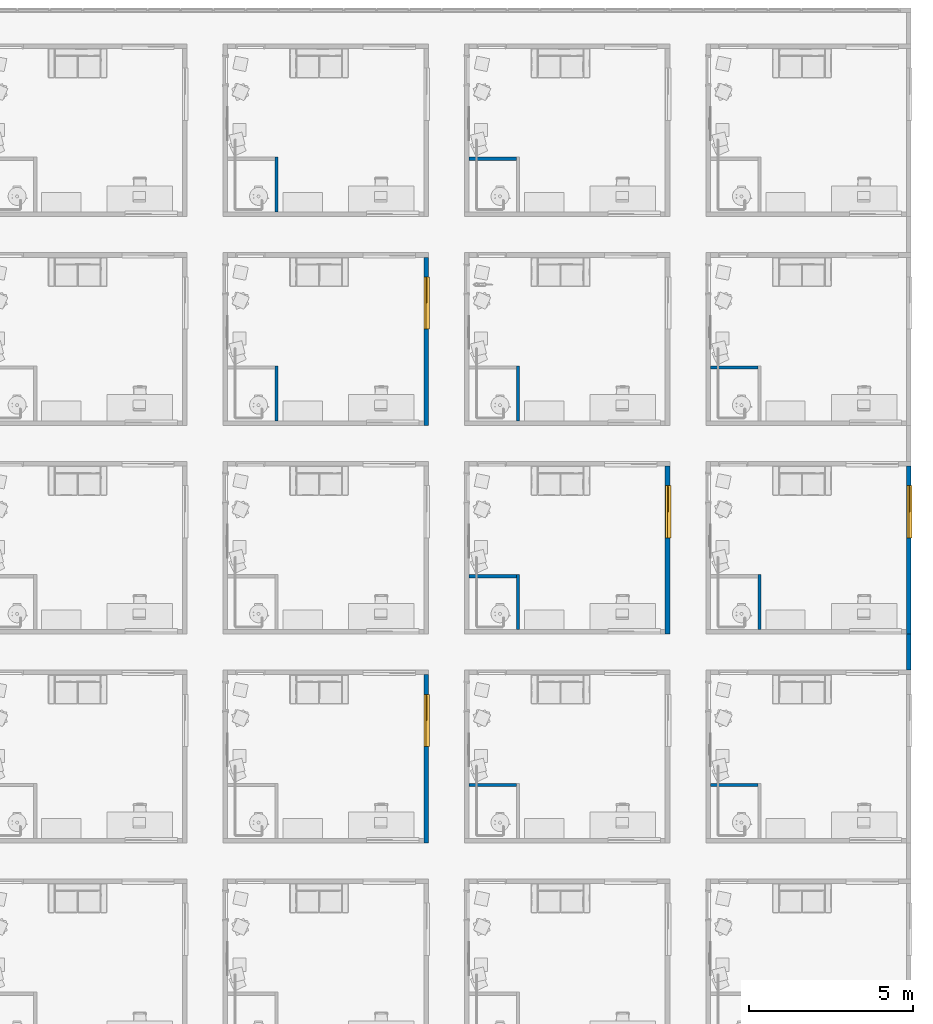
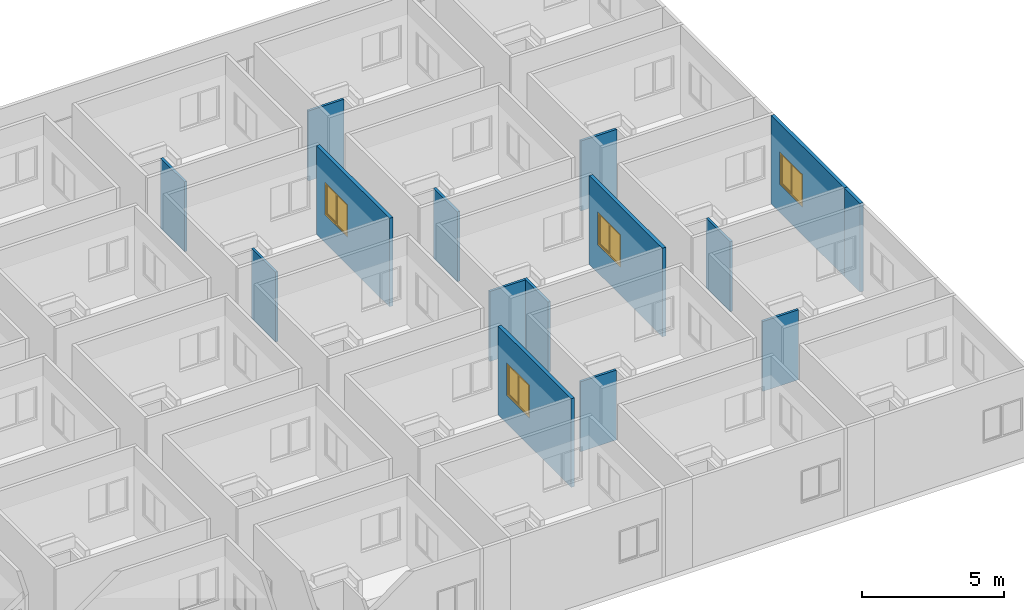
# One storey, part 10 of 71: 15 walls, 4 windows, 4 openings.
"""IFC4 building model written with IfcOpenShell, lengths in centimetres."""

from ifc_helpers import new_model, entity, si_unit, converted_unit, derived_unit, direction, frame, origin, place, context, subcontext, project, spatial, indexed_curve, outline, extrude, polygons, source, transform, mapped, material, constituent, constituent_set, type_object, type_shapes, element, fill, save


model = new_model("IFC4")

# Units and contexts
model_context = context("Model", 3, precision=0.001, world=origin(), true_north=direction((6.123233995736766e-17, 1.0)))
body_context = subcontext(model_context, "Body", "Model", "MODEL_VIEW")
ifc_project = project(units=[si_unit("LENGTHUNIT", "METRE", prefix="CENTI"), si_unit("AREAUNIT", "SQUARE_METRE"), si_unit("VOLUMEUNIT", "CUBIC_METRE"), derived_unit("THERMALTRANSMITTANCEUNIT", [(si_unit("MASSUNIT", "GRAM", prefix="KILO"), 1), (si_unit("THERMODYNAMICTEMPERATUREUNIT", "KELVIN"), -1), (si_unit("TIMEUNIT", "SECOND"), -3)]), converted_unit("PLANEANGLEUNIT", "DEGREE", entity("IfcPlaneAngleMeasure", 0.017453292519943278), si_unit("PLANEANGLEUNIT", "RADIAN"), dimensions=[0, 0, 0, 0, 0, 0, 0]), derived_unit("MASSDENSITYUNIT", [(si_unit("MASSUNIT", "GRAM", prefix="KILO"), 1), (si_unit("LENGTHUNIT", "METRE"), -3)]), derived_unit("VAPORPERMEABILITYUNIT", [(si_unit("LENGTHUNIT", "METRE"), -1), (si_unit("TIMEUNIT", "SECOND"), 1)]), derived_unit("USERDEFINED", [(si_unit("MASSUNIT", "GRAM", prefix="KILO"), 1), (si_unit("TIMEUNIT", "SECOND"), -3), (si_unit("LENGTHUNIT", "METRE"), 3), (si_unit("ELECTRICCURRENTUNIT", "AMPERE"), -2)]), derived_unit("SPECIFICHEATCAPACITYUNIT", [(si_unit("THERMODYNAMICTEMPERATUREUNIT", "KELVIN"), -1), (si_unit("LENGTHUNIT", "METRE"), 2), (si_unit("TIMEUNIT", "SECOND"), -2)]), derived_unit("THERMALCONDUCTANCEUNIT", [(si_unit("MASSUNIT", "GRAM", prefix="KILO"), 1), (si_unit("THERMODYNAMICTEMPERATUREUNIT", "KELVIN"), -1), (si_unit("TIMEUNIT", "SECOND"), -3), (si_unit("LENGTHUNIT", "METRE"), 1)]), si_unit("PRESSUREUNIT", "PASCAL"), derived_unit("MODULUSOFELASTICITYUNIT", [(si_unit("MASSUNIT", "GRAM", prefix="KILO"), 1), (si_unit("LENGTHUNIT", "METRE"), -1), (si_unit("TIMEUNIT", "SECOND"), -2)]), derived_unit("THERMALEXPANSIONCOEFFICIENTUNIT", [(si_unit("THERMODYNAMICTEMPERATUREUNIT", "KELVIN"), -1)])], contexts=[model_context])

# Site, building, storey
site_placement = place(None, origin())
site = spatial("IfcSite", under=ifc_project, at=site_placement, Name="Default", CompositionType="ELEMENT")
building_placement = place(site_placement, origin())
building = spatial("IfcBuilding", under=site, at=building_placement, Name="IDS Escape Game Building", CompositionType="ELEMENT")
storey_placement = place(building_placement, frame((0.0, 0.0, 1200.0)))
storey = spatial("IfcBuildingStorey", under=building, at=storey_placement, Name="03_Third Floor", CompositionType="ELEMENT", Elevation=1200.0)

# Wall, opening, window
ifc_material_1 = material(Name="ARC_FME.g2_Fg2 Masonry_00_gen_BERSnl", Category="g - klei")
wall_type_1 = type_object("IfcWallType", Name="Basic Wall:ARC_22.10_WA_LB_SB14_gen_BERSnl", PredefinedType="STANDARD")
wall_1_placement = place(storey_placement, frame((3566.0, 637.0, 0.0), z_axis=(0.0, 0.0, 1.0), x_axis=(0.0, 1.0, 0.0)))
wall_1 = element("IfcWall", 1, at=wall_1_placement, inside=storey, type_object=wall_type_1, material=ifc_material_1, Name="Basic Wall:ARC_22.10_WA_LB_SB14_gen_BERSnl", ObjectType="Basic Wall:ARC_22.10_WA_LB_SB14_gen_BERSnl", PredefinedType="NOTDEFINED", context=body_context, shape_type="Tessellation", body=[
    polygons([(0.0, -6.999999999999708, 0.0), (514.0, -6.999999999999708, 0.0), (514.0, -6.999999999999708, 380.0), (0.0, -6.999999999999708, 380.0), (453.99999999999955, -6.999999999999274, 260.00000000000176), (453.9999999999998, -6.999999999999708, 120.00000000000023), (293.9999999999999, -6.999999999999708, 120.00000000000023), (293.9999999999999, -6.999999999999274, 260.00000000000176), (453.9999999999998, 7.000000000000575, 120.00000000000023), (453.9999999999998, 7.000000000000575, 260.0), (293.9999999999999, 7.000000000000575, 260.0), (293.9999999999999, 7.000000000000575, 120.00000000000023), (0.0, 7.000000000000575, 0.0), (0.0, 7.000000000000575, 380.0), (13.999999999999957, 7.000000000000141, 380.0), (514.0, 7.000000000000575, 380.0), (514.0, 7.000000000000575, 0.0), (13.999999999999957, 7.000000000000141, 0.0)], [[[1, 2, 3, 4], [5, 6, 7, 8]], [[13, 14, 15, 16, 17, 18], [9, 10, 11, 12]], [[2, 1, 13, 18, 17]], [[4, 3, 16, 15, 14]], [[10, 9, 6, 5]], [[7, 12, 11, 8]], [[10, 5, 8, 11]], [[12, 7, 6, 9]], [[1, 4, 14, 13]], [[3, 2, 17, 16]]], closed=True),
])
opening_1_placement = place(wall_1_placement, frame((-637.0, 3566.0, 120.0), z_axis=(0.0, 0.0, 1.0), x_axis=(0.0, -1.0, 0.0)))
opening_1 = element("IfcOpeningElement", 2, at=opening_1_placement, cuts=wall_1, Name="Basic Wall:ARC_22.10_WA_LB_SB14_gen_BERSnl", PredefinedType="OPENING", context=body_context, shape_type="Tessellation", body=[
    polygons([(3559.0000000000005, 1091.0, 2.2737367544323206e-13), (3559.0000000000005, 1091.0, -1.0), (3554.0000000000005, 1091.0, -1.0), (3554.0000000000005, 1091.0, 2.2737367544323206e-13), (3559.0000000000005, 931.0, 2.2737367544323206e-13), (3554.0000000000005, 931.0, 2.2737367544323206e-13), (3554.0000000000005, 931.0, -1.0), (3559.0000000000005, 931.0, -1.0), (3559.0000000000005, 1086.0, 0.0), (3559.0000000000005, 936.0, 0.0), (3554.0000000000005, 936.0, 2.2737367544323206e-13), (3553.999999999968, 936.0, 135.0), (3553.999999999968, 1086.0, 135.0), (3554.0000000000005, 1086.0, 2.2737367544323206e-13), (3578.0368251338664, 1090.9999999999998, 2.2737367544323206e-13), (3558.9999999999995, 1091.0, 2.2737367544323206e-13), (3558.9999999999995, 1091.0, 140.00000000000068), (3578.036825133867, 1091.0, 140.00000000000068), (3578.0368251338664, 931.0, 140.0), (3558.9999999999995, 931.0, 140.0), (3558.9999999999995, 931.0, 2.2737367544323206e-13), (3578.0368251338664, 931.0, 2.2737367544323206e-13), (3558.9999999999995, 1086.0, 135.0), (3558.9999999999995, 936.0, 135.0)], [[[1, 2, 3, 4]], [[5, 6, 7, 8]], [[1, 9, 10, 5, 8, 2]], [[2, 8, 7, 3]], [[3, 7, 6, 11, 12, 13, 14, 4]], [[4, 14, 9, 1]], [[15, 16, 17, 18]], [[19, 20, 21, 22]], [[18, 17, 20, 19]], [[18, 19, 22, 15]], [[17, 16, 9, 23, 24, 10, 21, 20]], [[22, 21, 10, 9, 16, 15]], [[11, 10, 24, 12]], [[13, 23, 9, 14]], [[12, 24, 23, 13]], [[5, 10, 11, 6]]], closed=True),
])
ifc_material_2 = material(Name="<Unnamed>")
ifc_constituent_1 = constituent(ifc_material_2, Name="<Unnamed>", fraction=0.0)
ifc_material_3 = material(Name="ARC_FME.o1_glass_00_gen_BERSnl", Category="o - glas")
ifc_constituent_2 = constituent(ifc_material_3, Name="ARC_FME.o1_glass_00_gen_BERSnl", Category="o - glas", fraction=1.0)
ifc_constituent_set_1 = constituent_set(constituents=[ifc_constituent_1, ifc_constituent_2])
ifc_constituent_3 = constituent(ifc_material_2, Name="BE Tablet", fraction=0.0)
ifc_constituent_4 = constituent(ifc_material_2, Name="Frame/Mullion", fraction=0.0)
ifc_constituent_5 = constituent(ifc_material_3, Name="Glass", Category="o - glas", fraction=1.0)
ifc_constituent_set_2 = constituent_set(constituents=[ifc_constituent_3, ifc_constituent_4, ifc_constituent_5])
window_type = type_object("IfcWindowType", Name="ARC_31_WI_WB_Dubbel Raam-Recht-Vast en Draaiend_gen_BERSnl:Links-Draaiend / Rechts-Draaiend", PartitioningType="NOTDEFINED", PredefinedType="WINDOW", material=ifc_constituent_set_2)
shared_shape = source(origin(), body_context, "Body", "Tessellation", [
    extrude(outline(indexed_curve([(-80.00000000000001, -4.999999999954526), (80.00000000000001, -4.999999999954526), (80.00000000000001, 4.999999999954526), (-80.00000000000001, 4.999999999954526), (-80.00000000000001, -4.999999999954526)], self_intersect=False)), frame((80.0, 7.036825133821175, 1.0), z_axis=(0.0, 0.0, 1.0), x_axis=(-1.0, 0.0, 0.0)), (0.0, 0.0, 1.0), 2.000000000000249),
    extrude(outline(indexed_curve([(-2.9999999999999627, -3.000000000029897), (-7.656209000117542e-14, -3.000000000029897), (-7.064016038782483e-14, 5.979964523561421e-11), (3.0000000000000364, 5.978991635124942e-11), (3.0000000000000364, 2.9999999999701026), (-2.9999999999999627, 2.9999999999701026), (-2.9999999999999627, -3.000000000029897)], self_intersect=False)), frame((80.0, 15.03682513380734, 7.0)), (0.0, 0.0, 1.0), 128.00000000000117),
    extrude(outline(indexed_curve([(-35.499999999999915, -1.2000000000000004), (35.499999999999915, -1.2000000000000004), (35.49999999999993, 1.2), (-35.499999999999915, 1.2), (-35.499999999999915, -1.2000000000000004)], self_intersect=False)), frame((41.50000000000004, 15.036825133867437, 7.0), z_axis=(0.0, 0.0, 1.0), x_axis=(-1.0, 0.0, 0.0)), (0.0, 0.0, 1.0), 128.000000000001),
    extrude(outline(indexed_curve([(-67.00000000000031, -38.500000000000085), (67.00000000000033, -38.5000000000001), (67.00000000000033, 38.50000000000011), (-67.00000000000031, 38.50000000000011), (-67.00000000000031, -38.500000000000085)], self_intersect=False), holes=[indexed_curve([(61.00000000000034, -32.50000000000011), (-61.00000000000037, -32.500000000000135), (-61.00000000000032, 32.50000000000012), (61.00000000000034, 32.50000000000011), (61.00000000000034, -32.50000000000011)], self_intersect=False)]), frame((118.5, 9.03682513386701, 71.0), z_axis=(0.0, 1.0, 0.0), x_axis=(0.0, 0.0, -1.0)), (0.0, 0.0, 1.0), 6.0),
    extrude(outline(indexed_curve([(-32.500000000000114, -1.2000000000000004), (32.500000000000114, -1.2000000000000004), (32.500000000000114, 1.2000000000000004), (-32.500000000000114, 1.2000000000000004), (-32.500000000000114, -1.2000000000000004)], self_intersect=False)), frame((118.5, 12.036825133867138, 10.0), z_axis=(0.0, 0.0, 1.0), x_axis=(-1.0, 0.0, 0.0)), (0.0, 0.0, 1.0), 122.00000000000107),
    polygons([(160.00000000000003, 18.03682513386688, 141.00000000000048), (160.00000000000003, 18.03682513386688, 1.0000000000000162), (4.0607517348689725e-14, 18.036825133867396, 1.0000000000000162), (4.0607517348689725e-14, 18.036825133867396, 141.00000000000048), (6.000000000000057, 18.03682513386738, 135.00000000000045), (6.000000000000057, 18.03682513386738, 7.000000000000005), (76.99999999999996, 18.03682513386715, 7.000000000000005), (154.00000000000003, 18.0368251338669, 7.000000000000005), (154.00000000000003, 18.0368251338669, 135.00000000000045), (76.99999999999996, 18.03682513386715, 135.00000000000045), (160.0, 12.03682513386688, 141.00000000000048), (160.0, 12.03682513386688, 1.0000000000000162), (2.7071678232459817e-14, 12.036825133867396, 1.0000000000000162), (2.7071678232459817e-14, 12.036825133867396, 141.00000000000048), (6.000000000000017, 12.036825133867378, 135.00000000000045), (6.000000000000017, 12.036825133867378, 7.000000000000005), (76.99999999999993, 12.036825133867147, 7.000000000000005), (79.99999999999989, 12.036825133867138, 7.000000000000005), (79.9999999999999, 15.036825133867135, 7.000000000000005), (154.00000000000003, 15.0368251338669, 7.000000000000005), (154.00000000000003, 15.036825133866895, 135.00000000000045), (76.99999999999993, 12.036825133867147, 135.00000000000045), (79.99999999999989, 12.036825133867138, 135.00000000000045), (79.99999999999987, 12.036825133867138, 138.00000000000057), (157.00000000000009, 12.036825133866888, 138.00000000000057), (157.00000000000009, 12.036825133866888, 3.9999999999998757), (79.99999999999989, 12.036825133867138, 3.9999999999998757), (157.0000000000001, 15.036825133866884, 3.9999999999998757), (157.0000000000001, 15.036825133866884, 138.00000000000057), (79.99999999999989, 15.036825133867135, 3.9999999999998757), (79.99999999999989, 15.036825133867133, 138.00000000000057), (79.99999999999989, 15.036825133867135, 135.00000000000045)], [[[1, 2, 3, 4], [5, 6, 7, 8, 9, 10]], [[2, 1, 11, 12]], [[3, 2, 12, 13]], [[4, 3, 13, 14]], [[6, 5, 15, 16]], [[6, 16, 17, 18, 19, 20, 8, 7]], [[9, 8, 20, 21]], [[11, 14, 13, 12], [16, 15, 22, 23, 24, 25, 26, 27, 18, 17]], [[28, 26, 25, 29]], [[30, 27, 26, 28]], [[31, 24, 23, 32]], [[30, 28, 29, 31, 32, 21, 20, 19]], [[1, 4, 14, 11]], [[15, 5, 10, 9, 21, 32, 23, 22]], [[24, 31, 29, 25]], [[27, 30, 19, 18]]], closed=True),
])
type_shapes(window_type, [shared_shape])
window_1_placement = place(opening_1_placement, frame((3578.0368251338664, 931.0, -1.0), z_axis=(0.0, 0.0, 1.0), x_axis=(0.0, 1.0, 0.0)))
window_1 = element("IfcWindow", 3, at=window_1_placement, inside=storey, type_object=window_type, material=ifc_constituent_set_1, Name="ARC_31_WI_WB_Dubbel Raam-Recht-Vast en Draaiend_gen_BERSnl:Links-Draaiend / Rechts-Draaiend", ObjectType="ARC_31_WI_WB_Dubbel Raam-Recht-Vast en Draaiend_gen_BERSnl:Links-Draaiend / Rechts-Draaiend", OverallHeight=140.00000000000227, OverallWidth=160.0000000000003, PartitioningType="NOTDEFINED", PredefinedType="WINDOW", context=body_context, shape_type="MappedRepresentation", body=[
    mapped(shared_shape, transform((0.0, 0.0, 0.0), scale=1.0)),
])
fill(opening_1, window_1)

wall_2_placement = place(storey_placement, frame((4304.0, 1275.0, 0.0), z_axis=(0.0, 0.0, 1.0), x_axis=(0.0, 1.0, 0.0)))
wall_2 = element("IfcWall", 4, at=wall_2_placement, inside=storey, type_object=wall_type_1, material=ifc_material_1, Name="Basic Wall:ARC_22.10_WA_LB_SB14_gen_BERSnl", ObjectType="Basic Wall:ARC_22.10_WA_LB_SB14_gen_BERSnl", PredefinedType="NOTDEFINED", context=body_context, shape_type="Tessellation", body=[
    polygons([(0.0, -7.000000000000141, 0.0), (514.0000000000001, -7.000000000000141, 0.0), (514.0000000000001, -7.000000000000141, 380.0), (0.0, -7.000000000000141, 380.0), (453.9999999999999, -7.000000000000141, 260.00000000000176), (454.00000000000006, -7.000000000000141, 120.00000000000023), (294.00000000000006, -7.000000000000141, 120.00000000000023), (294.00000000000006, -7.000000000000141, 260.00000000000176), (454.00000000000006, 7.000000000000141, 120.00000000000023), (454.00000000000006, 7.000000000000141, 260.0), (294.00000000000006, 7.000000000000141, 260.0), (294.00000000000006, 7.000000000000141, 120.00000000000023), (0.0, 7.000000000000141, 0.0), (0.0, 7.000000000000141, 380.0), (14.000000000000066, 7.000000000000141, 380.0), (514.0000000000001, 7.000000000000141, 380.0), (514.0000000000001, 7.000000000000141, 0.0), (14.000000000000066, 7.000000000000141, 0.0)], [[[1, 2, 3, 4], [5, 6, 7, 8]], [[13, 14, 15, 16, 17, 18], [9, 10, 11, 12]], [[2, 1, 13, 18, 17]], [[4, 3, 16, 15, 14]], [[10, 9, 6, 5]], [[7, 12, 11, 8]], [[10, 5, 8, 11]], [[12, 7, 6, 9]], [[1, 4, 14, 13]], [[3, 2, 17, 16]]], closed=True),
])
opening_2_placement = place(wall_2_placement, frame((-1275.0, 4304.0, 120.0), z_axis=(0.0, 0.0, 1.0), x_axis=(0.0, -1.0, 0.0)))
opening_2 = element("IfcOpeningElement", 5, at=opening_2_placement, cuts=wall_2, Name="Basic Wall:ARC_22.10_WA_LB_SB14_gen_BERSnl", PredefinedType="OPENING", context=body_context, shape_type="Tessellation", body=[
    polygons([(4297.0, 1729.0000000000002, 2.2737367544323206e-13), (4297.0, 1729.0000000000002, -1.0), (4292.000000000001, 1729.0000000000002, -1.0), (4292.000000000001, 1729.0000000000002, 2.2737367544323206e-13), (4297.0, 1569.0000000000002, 2.2737367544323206e-13), (4292.000000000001, 1569.0000000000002, 2.2737367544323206e-13), (4292.000000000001, 1569.0000000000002, -1.0), (4297.0, 1569.0000000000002, -1.0), (4297.0, 1724.0000000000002, 0.0), (4297.0, 1574.0000000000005, 0.0), (4292.000000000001, 1574.0000000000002, 2.2737367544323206e-13), (4291.999999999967, 1574.0000000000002, 135.0), (4291.999999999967, 1724.0000000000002, 135.0), (4292.000000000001, 1724.0000000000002, 2.2737367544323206e-13), (4316.036825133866, 1729.0000000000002, 2.2737367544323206e-13), (4296.999999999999, 1729.0000000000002, 2.2737367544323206e-13), (4296.999999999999, 1729.0000000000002, 140.00000000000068), (4316.036825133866, 1729.0000000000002, 140.00000000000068), (4316.036825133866, 1569.0000000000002, 140.0), (4296.999999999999, 1569.0000000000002, 140.0), (4296.999999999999, 1569.0000000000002, 2.2737367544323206e-13), (4316.036825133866, 1569.0000000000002, 2.2737367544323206e-13), (4296.999999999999, 1724.0000000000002, 135.0), (4296.999999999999, 1574.0000000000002, 135.0)], [[[1, 2, 3, 4]], [[5, 6, 7, 8]], [[1, 9, 10, 5, 8, 2]], [[2, 8, 7, 3]], [[3, 7, 6, 11, 12, 13, 14, 4]], [[4, 14, 9, 1]], [[15, 16, 17, 18]], [[19, 20, 21, 22]], [[18, 17, 20, 19]], [[18, 19, 22, 15]], [[17, 16, 9, 23, 24, 10, 21, 20]], [[22, 21, 10, 9, 16, 15]], [[11, 10, 24, 12]], [[13, 23, 9, 14]], [[12, 24, 23, 13]], [[5, 10, 11, 6]]], closed=True),
])
ifc_constituent_6 = constituent(ifc_material_2, Name="<Unnamed>", fraction=0.0)
ifc_constituent_7 = constituent(ifc_material_3, Name="ARC_FME.o1_glass_00_gen_BERSnl", Category="o - glas", fraction=1.0)
ifc_constituent_set_3 = constituent_set(constituents=[ifc_constituent_6, ifc_constituent_7])
window_2_placement = place(opening_2_placement, frame((4316.036825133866, 1569.0, -1.0), z_axis=(0.0, 0.0, 1.0), x_axis=(0.0, 1.0, 0.0)))
window_2 = element("IfcWindow", 6, at=window_2_placement, inside=storey, type_object=window_type, material=ifc_constituent_set_3, Name="ARC_31_WI_WB_Dubbel Raam-Recht-Vast en Draaiend_gen_BERSnl:Links-Draaiend / Rechts-Draaiend", ObjectType="ARC_31_WI_WB_Dubbel Raam-Recht-Vast en Draaiend_gen_BERSnl:Links-Draaiend / Rechts-Draaiend", OverallHeight=140.00000000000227, OverallWidth=160.0000000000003, PartitioningType="NOTDEFINED", PredefinedType="WINDOW", context=body_context, shape_type="MappedRepresentation", body=[
    mapped(shared_shape, transform((0.0, 0.0, 0.0), scale=1.0)),
])
fill(opening_2, window_2)

wall_3_placement = place(storey_placement, frame((5042.0, 1275.0, 0.0), z_axis=(0.0, 0.0, 1.0), x_axis=(0.0, 1.0, 0.0)))
wall_3 = element("IfcWall", 7, at=wall_3_placement, inside=storey, type_object=wall_type_1, material=ifc_material_1, Name="Basic Wall:ARC_22.10_WA_LB_SB14_gen_BERSnl", ObjectType="Basic Wall:ARC_22.10_WA_LB_SB14_gen_BERSnl", PredefinedType="NOTDEFINED", context=body_context, shape_type="Tessellation", body=[
    polygons([(0.0, -7.000000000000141, 0.0), (514.0000000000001, -7.000000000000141, 0.0), (514.0000000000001, -7.000000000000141, 380.0), (0.0, -7.000000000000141, 380.0), (453.9999999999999, -7.000000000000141, 260.00000000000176), (454.00000000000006, -7.000000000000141, 120.00000000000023), (294.00000000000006, -7.000000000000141, 120.00000000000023), (294.00000000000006, -7.000000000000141, 260.00000000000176), (454.00000000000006, 7.000000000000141, 120.00000000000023), (454.00000000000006, 7.000000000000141, 260.0), (294.00000000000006, 7.000000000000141, 260.0), (294.00000000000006, 7.000000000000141, 120.00000000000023), (0.0, 7.000000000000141, 0.0), (0.0, 7.000000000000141, 380.0), (14.000000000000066, 7.000000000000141, 380.0), (514.0000000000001, 7.000000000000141, 380.0), (514.0000000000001, 7.000000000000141, 0.0), (14.000000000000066, 7.000000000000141, 0.0)], [[[1, 2, 3, 4], [5, 6, 7, 8]], [[13, 14, 15, 16, 17, 18], [9, 10, 11, 12]], [[2, 1, 13, 18, 17]], [[4, 3, 16, 15, 14]], [[10, 9, 6, 5]], [[7, 12, 11, 8]], [[10, 5, 8, 11]], [[12, 7, 6, 9]], [[1, 4, 14, 13]], [[3, 2, 17, 16]]], closed=True),
])
opening_3_placement = place(wall_3_placement, frame((-1275.0, 5042.0, 120.0), z_axis=(0.0, 0.0, 1.0), x_axis=(0.0, -1.0, 0.0)))
opening_3 = element("IfcOpeningElement", 8, at=opening_3_placement, cuts=wall_3, Name="Basic Wall:ARC_22.10_WA_LB_SB14_gen_BERSnl", PredefinedType="OPENING", context=body_context, shape_type="Tessellation", body=[
    polygons([(5035.0, 1729.0000000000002, 2.2737367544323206e-13), (5035.0, 1729.0000000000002, -1.0), (5030.0, 1729.0000000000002, -1.0), (5030.0, 1729.0000000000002, 2.2737367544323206e-13), (5035.0, 1569.0000000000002, 2.2737367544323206e-13), (5030.0, 1569.0000000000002, 2.2737367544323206e-13), (5030.0, 1569.0000000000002, -1.0), (5035.0, 1569.0000000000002, -1.0), (5034.999999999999, 1724.0000000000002, 0.0), (5035.0, 1574.0000000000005, 0.0), (5030.0, 1574.0000000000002, 2.2737367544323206e-13), (5029.999999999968, 1574.0000000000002, 135.0), (5029.999999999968, 1724.0000000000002, 135.0), (5030.0, 1724.0000000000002, 2.2737367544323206e-13), (5054.036825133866, 1729.0000000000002, 2.2737367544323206e-13), (5034.999999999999, 1729.0000000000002, 2.2737367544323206e-13), (5034.999999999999, 1729.0000000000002, 140.00000000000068), (5054.036825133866, 1729.0000000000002, 140.00000000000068), (5054.036825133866, 1569.0000000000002, 140.0), (5034.999999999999, 1569.0000000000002, 140.0), (5034.999999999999, 1569.0000000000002, 2.2737367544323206e-13), (5054.036825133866, 1569.0000000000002, 2.2737367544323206e-13), (5034.999999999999, 1724.0000000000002, 135.0), (5034.999999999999, 1574.0000000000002, 135.0)], [[[1, 2, 3, 4]], [[5, 6, 7, 8]], [[1, 9, 10, 5, 8, 2]], [[2, 8, 7, 3]], [[3, 7, 6, 11, 12, 13, 14, 4]], [[4, 14, 9, 1]], [[15, 16, 17, 18]], [[19, 20, 21, 22]], [[18, 17, 20, 19]], [[18, 19, 22, 15]], [[17, 16, 9, 23, 24, 10, 21, 20]], [[22, 21, 10, 9, 16, 15]], [[11, 10, 24, 12]], [[13, 23, 9, 14]], [[12, 24, 23, 13]], [[5, 10, 11, 6]]], closed=True),
])
ifc_constituent_8 = constituent(ifc_material_2, Name="<Unnamed>", fraction=0.0)
ifc_constituent_9 = constituent(ifc_material_3, Name="ARC_FME.o1_glass_00_gen_BERSnl", Category="o - glas", fraction=1.0)
ifc_constituent_set_4 = constituent_set(constituents=[ifc_constituent_8, ifc_constituent_9])
window_3_placement = place(opening_3_placement, frame((5054.036825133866, 1569.0, -1.0), z_axis=(0.0, 0.0, 1.0), x_axis=(0.0, 1.0, 0.0)))
window_3 = element("IfcWindow", 9, at=window_3_placement, inside=storey, type_object=window_type, material=ifc_constituent_set_4, Name="ARC_31_WI_WB_Dubbel Raam-Recht-Vast en Draaiend_gen_BERSnl:Links-Draaiend / Rechts-Draaiend", ObjectType="ARC_31_WI_WB_Dubbel Raam-Recht-Vast en Draaiend_gen_BERSnl:Links-Draaiend / Rechts-Draaiend", OverallHeight=140.00000000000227, OverallWidth=160.0000000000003, PartitioningType="NOTDEFINED", PredefinedType="WINDOW", context=body_context, shape_type="MappedRepresentation", body=[
    mapped(shared_shape, transform((0.0, 0.0, 0.0), scale=1.0)),
])
fill(opening_3, window_3)

wall_4_placement = place(storey_placement, frame((3566.0, 1913.0, 0.0), z_axis=(0.0, 0.0, 1.0), x_axis=(0.0, 1.0, 0.0)))
wall_4 = element("IfcWall", 10, at=wall_4_placement, inside=storey, type_object=wall_type_1, material=ifc_material_1, Name="Basic Wall:ARC_22.10_WA_LB_SB14_gen_BERSnl", ObjectType="Basic Wall:ARC_22.10_WA_LB_SB14_gen_BERSnl", PredefinedType="NOTDEFINED", context=body_context, shape_type="Tessellation", body=[
    polygons([(0.0, -6.999999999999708, 0.0), (513.9999999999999, -6.999999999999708, 0.0), (513.9999999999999, -6.999999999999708, 380.0), (0.0, -6.999999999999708, 380.0), (453.99999999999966, -6.999999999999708, 260.00000000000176), (454.00000000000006, -6.999999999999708, 120.00000000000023), (294.00000000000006, -6.999999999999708, 120.00000000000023), (294.00000000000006, -6.999999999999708, 260.00000000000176), (454.00000000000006, 7.000000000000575, 120.00000000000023), (454.00000000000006, 7.000000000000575, 260.0), (294.00000000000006, 7.000000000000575, 260.0), (294.00000000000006, 7.000000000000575, 120.00000000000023), (0.0, 7.000000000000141, 0.0), (0.0, 7.000000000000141, 380.0), (14.000000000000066, 7.000000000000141, 380.0), (513.9999999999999, 7.000000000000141, 380.0), (513.9999999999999, 7.000000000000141, 0.0), (14.000000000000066, 7.000000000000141, 0.0)], [[[1, 2, 3, 4], [5, 6, 7, 8]], [[13, 14, 15, 16, 17, 18], [9, 10, 11, 12]], [[2, 1, 13, 18, 17]], [[4, 3, 16, 15, 14]], [[10, 9, 6, 5]], [[7, 12, 11, 8]], [[10, 5, 8, 11]], [[12, 7, 6, 9]], [[1, 4, 14, 13]], [[3, 2, 17, 16]]], closed=True),
])
opening_4_placement = place(wall_4_placement, frame((-1913.0, 3566.0, 120.0), z_axis=(0.0, 0.0, 1.0), x_axis=(0.0, -1.0, 0.0)))
opening_4 = element("IfcOpeningElement", 11, at=opening_4_placement, cuts=wall_4, Name="Basic Wall:ARC_22.10_WA_LB_SB14_gen_BERSnl", PredefinedType="OPENING", context=body_context, shape_type="Tessellation", body=[
    polygons([(3558.9999999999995, 2367.0000000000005, 2.2737367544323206e-13), (3558.9999999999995, 2367.0000000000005, -1.0), (3553.9999999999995, 2367.0000000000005, -1.0), (3553.9999999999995, 2367.0000000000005, 2.2737367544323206e-13), (3558.9999999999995, 2207.0000000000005, 2.2737367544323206e-13), (3553.9999999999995, 2207.0000000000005, 2.2737367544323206e-13), (3553.9999999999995, 2207.0000000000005, -1.0), (3558.9999999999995, 2207.0000000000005, -1.0), (3558.9999999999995, 2362.0000000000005, 0.0), (3558.999999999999, 2212.0000000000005, 0.0), (3554.0, 2212.0000000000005, 2.2737367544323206e-13), (3553.999999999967, 2212.0, 135.0), (3553.999999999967, 2362.0000000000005, 135.0), (3554.0, 2362.0000000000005, 2.2737367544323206e-13), (3578.0368251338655, 2367.0000000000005, 2.2737367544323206e-13), (3558.999999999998, 2367.0000000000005, 2.2737367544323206e-13), (3558.9999999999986, 2367.0000000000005, 140.00000000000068), (3578.0368251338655, 2367.0000000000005, 140.00000000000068), (3578.0368251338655, 2207.0000000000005, 140.0), (3558.999999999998, 2207.0000000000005, 140.0), (3558.999999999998, 2207.0000000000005, 2.2737367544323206e-13), (3578.0368251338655, 2207.0000000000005, 2.2737367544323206e-13), (3558.9999999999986, 2362.0000000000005, 135.0), (3558.999999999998, 2212.0, 135.0)], [[[1, 2, 3, 4]], [[5, 6, 7, 8]], [[1, 9, 10, 5, 8, 2]], [[2, 8, 7, 3]], [[3, 7, 6, 11, 12, 13, 14, 4]], [[4, 14, 9, 1]], [[15, 16, 17, 18]], [[19, 20, 21, 22]], [[18, 17, 20, 19]], [[18, 19, 22, 15]], [[17, 16, 9, 23, 24, 10, 21, 20]], [[22, 21, 10, 9, 16, 15]], [[11, 10, 24, 12]], [[13, 23, 9, 14]], [[12, 24, 23, 13]], [[5, 10, 11, 6]]], closed=True),
])
ifc_constituent_10 = constituent(ifc_material_2, Name="<Unnamed>", fraction=0.0)
ifc_constituent_11 = constituent(ifc_material_3, Name="ARC_FME.o1_glass_00_gen_BERSnl", Category="o - glas", fraction=1.0)
ifc_constituent_set_5 = constituent_set(constituents=[ifc_constituent_10, ifc_constituent_11])
window_4_placement = place(opening_4_placement, frame((3578.0368251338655, 2207.0, -1.0), z_axis=(0.0, 0.0, 1.0), x_axis=(0.0, 1.0, 0.0)))
window_4 = element("IfcWindow", 12, at=window_4_placement, inside=storey, type_object=window_type, material=ifc_constituent_set_5, Name="ARC_31_WI_WB_Dubbel Raam-Recht-Vast en Draaiend_gen_BERSnl:Links-Draaiend / Rechts-Draaiend", ObjectType="ARC_31_WI_WB_Dubbel Raam-Recht-Vast en Draaiend_gen_BERSnl:Links-Draaiend / Rechts-Draaiend", OverallHeight=140.00000000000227, OverallWidth=160.0000000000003, PartitioningType="NOTDEFINED", PredefinedType="WINDOW", context=body_context, shape_type="MappedRepresentation", body=[
    mapped(shared_shape, transform((0.0, 0.0, 0.0), scale=1.0)),
])
fill(opening_4, window_4)

# Walls
wall_5_placement = place(storey_placement, frame((5042.0, 1275.0, 0.0), z_axis=(0.0, 0.0, 1.0), x_axis=(0.0, -1.0, 0.0)))
element("IfcWall", 13, at=wall_5_placement, inside=storey, type_object=wall_type_1, material=ifc_material_1, Name="Basic Wall:ARC_22.10_WA_LB_SB14_gen_BERSnl", ObjectType="Basic Wall:ARC_22.10_WA_LB_SB14_gen_BERSnl", PredefinedType="NOTDEFINED", context=body_context, shape_type="SweptSolid", body=[
    extrude(outline(indexed_curve([(109.9999999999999, 7.000000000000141), (0.0, 7.000000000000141), (0.0, -7.000000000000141), (109.9999999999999, -7.000000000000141), (109.9999999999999, 7.000000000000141)], self_intersect=False)), origin(), (0.0, 0.0, 1.0), 380.0000000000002),
])
ifc_material_4 = material(Name="ARC_FME.r2_Plaster_white_gen_BERSnl", Category="r - klei, gips, magnesium en kunststof bindmiddelen")
wall_type_2 = type_object("IfcWallType", Name="Basic Wall:ARC_22.10_WA_LB_GPS10_gen_BERSnl", PredefinedType="STANDARD")
for number, where, z_axis, x_axis in (
    (14, (3842.0, 814.0, 0.0), (0.0, 0.0, 1.0), (-1.0, 0.0, 0.0)),
    (15, (4580.0, 814.0, 0.0), (0.0, 0.0, 1.0), (-1.0, 0.0, 0.0)),
):
    element("IfcWall", number, at=place(storey_placement, frame(where, z_axis=z_axis, x_axis=x_axis)), inside=storey, type_object=wall_type_2, material=ifc_material_4, Name="Basic Wall:ARC_22.10_WA_LB_GPS10_gen_BERSnl", ObjectType="Basic Wall:ARC_22.10_WA_LB_GPS10_gen_BERSnl", PredefinedType="NOTDEFINED", context=body_context, shape_type="SweptSolid", body=[
        extrude(outline(indexed_curve([(144.99999999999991, 4.99999999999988), (-1.6380951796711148e-14, 4.999999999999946), (1.6380951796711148e-14, -4.999999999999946), (144.99999999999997, -5.000000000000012), (144.99999999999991, 4.99999999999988)], self_intersect=False)), origin(), (0.0, 0.0, 1.0), 300.0000000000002),
    ])
wall_6_placement = place(storey_placement, frame((3847.0, 1289.0, 0.0), z_axis=(0.0, 0.0, 1.0), x_axis=(0.0, 1.0, 0.0)))
element("IfcWall", 16, at=wall_6_placement, inside=storey, type_object=wall_type_2, material=ifc_material_4, Name="Basic Wall:ARC_22.10_WA_LB_GPS10_gen_BERSnl", ObjectType="Basic Wall:ARC_22.10_WA_LB_GPS10_gen_BERSnl", PredefinedType="NOTDEFINED", context=body_context, shape_type="SweptSolid", body=[
    extrude(outline(indexed_curve([(168.00000000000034, 4.9999999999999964), (-7.956027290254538e-15, 5.0000000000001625), (7.956027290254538e-15, -5.0000000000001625), (168.00000000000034, -5.000000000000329), (168.00000000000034, 4.9999999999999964)], self_intersect=False)), origin(), (0.0, 0.0, 1.0), 300.0000000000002),
])
wall_7_placement = place(storey_placement, frame((3842.0, 1452.0, 0.0), z_axis=(0.0, 0.0, 1.0), x_axis=(-1.0, 0.0, 0.0)))
element("IfcWall", 17, at=wall_7_placement, inside=storey, type_object=wall_type_2, material=ifc_material_4, Name="Basic Wall:ARC_22.10_WA_LB_GPS10_gen_BERSnl", ObjectType="Basic Wall:ARC_22.10_WA_LB_GPS10_gen_BERSnl", PredefinedType="NOTDEFINED", context=body_context, shape_type="SweptSolid", body=[
    extrude(outline(indexed_curve([(144.99999999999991, 4.9999999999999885), (-1.6380951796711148e-14, 4.999999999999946), (1.6380951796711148e-14, -4.999999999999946), (144.99999999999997, -4.999999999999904), (144.99999999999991, 4.9999999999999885)], self_intersect=False)), origin(), (0.0, 0.0, 1.0), 300.0000000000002),
])
wall_8_placement = place(storey_placement, frame((4585.0, 1289.0, 0.0), z_axis=(0.0, 0.0, 1.0), x_axis=(0.0, 1.0, 0.0)))
element("IfcWall", 18, at=wall_8_placement, inside=storey, type_object=wall_type_2, material=ifc_material_4, Name="Basic Wall:ARC_22.10_WA_LB_GPS10_gen_BERSnl", ObjectType="Basic Wall:ARC_22.10_WA_LB_GPS10_gen_BERSnl", PredefinedType="NOTDEFINED", context=body_context, shape_type="SweptSolid", body=[
    extrude(outline(indexed_curve([(168.00000000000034, 4.9999999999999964), (-7.95602729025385e-15, 4.999999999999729), (7.95602729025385e-15, -4.999999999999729), (168.00000000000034, -4.999999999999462), (168.00000000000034, 4.9999999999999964)], self_intersect=False)), origin(), (0.0, 0.0, 1.0), 300.0000000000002),
])
for number, where, z_axis, x_axis in (
    (19, (3109.0, 1927.0, 0.0), (0.0, 0.0, 1.0), (0.0, 1.0, 0.0)),
    (20, (3847.0, 1927.0, 0.0), (0.0, 0.0, 1.0), (0.0, 1.0, 0.0)),
):
    element("IfcWall", number, at=place(storey_placement, frame(where, z_axis=z_axis, x_axis=x_axis)), inside=storey, type_object=wall_type_2, material=ifc_material_4, Name="Basic Wall:ARC_22.10_WA_LB_GPS10_gen_BERSnl", ObjectType="Basic Wall:ARC_22.10_WA_LB_GPS10_gen_BERSnl", PredefinedType="NOTDEFINED", context=body_context, shape_type="SweptSolid", body=[
        extrude(outline(indexed_curve([(167.99999999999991, 4.9999999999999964), (-7.956027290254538e-15, 5.0000000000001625), (7.956027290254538e-15, -5.0000000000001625), (167.99999999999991, -5.000000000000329), (167.99999999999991, 4.9999999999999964)], self_intersect=False)), origin(), (0.0, 0.0, 1.0), 300.0000000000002),
    ])
wall_9_placement = place(storey_placement, frame((4580.0, 2090.0, 0.0), z_axis=(0.0, 0.0, 1.0), x_axis=(-1.0, 0.0, 0.0)))
element("IfcWall", 21, at=wall_9_placement, inside=storey, type_object=wall_type_2, material=ifc_material_4, Name="Basic Wall:ARC_22.10_WA_LB_GPS10_gen_BERSnl", ObjectType="Basic Wall:ARC_22.10_WA_LB_GPS10_gen_BERSnl", PredefinedType="NOTDEFINED", context=body_context, shape_type="SweptSolid", body=[
    extrude(outline(indexed_curve([(144.99999999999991, 5.000000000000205), (-1.6380951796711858e-14, 5.0000000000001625), (1.6380951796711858e-14, -5.0000000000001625), (144.99999999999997, -5.00000000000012), (144.99999999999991, 5.000000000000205)], self_intersect=False)), origin(), (0.0, 0.0, 1.0), 300.0000000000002),
])
wall_10_placement = place(storey_placement, frame((3109.0, 2565.0, 0.0), z_axis=(0.0, 0.0, 1.0), x_axis=(0.0, 1.0, 0.0)))
element("IfcWall", 22, at=wall_10_placement, inside=storey, type_object=wall_type_2, material=ifc_material_4, Name="Basic Wall:ARC_22.10_WA_LB_GPS10_gen_BERSnl", ObjectType="Basic Wall:ARC_22.10_WA_LB_GPS10_gen_BERSnl", PredefinedType="NOTDEFINED", context=body_context, shape_type="SweptSolid", body=[
    extrude(outline(indexed_curve([(167.9999999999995, 4.9999999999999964), (-7.956027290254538e-15, 5.0000000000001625), (7.956027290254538e-15, -5.0000000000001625), (167.9999999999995, -5.000000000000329), (167.9999999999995, 4.9999999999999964)], self_intersect=False)), origin(), (0.0, 0.0, 1.0), 300.0000000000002),
])
wall_11_placement = place(storey_placement, frame((3842.0, 2728.0, 0.0), z_axis=(0.0, 0.0, 1.0), x_axis=(-1.0, 0.0, 0.0)))
element("IfcWall", 23, at=wall_11_placement, inside=storey, type_object=wall_type_2, material=ifc_material_4, Name="Basic Wall:ARC_22.10_WA_LB_GPS10_gen_BERSnl", ObjectType="Basic Wall:ARC_22.10_WA_LB_GPS10_gen_BERSnl", PredefinedType="NOTDEFINED", context=body_context, shape_type="SweptSolid", body=[
    extrude(outline(indexed_curve([(144.99999999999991, 5.000000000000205), (-1.6380951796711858e-14, 5.0000000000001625), (1.6380951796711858e-14, -5.0000000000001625), (144.99999999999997, -5.00000000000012), (144.99999999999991, 5.000000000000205)], self_intersect=False)), origin(), (0.0, 0.0, 1.0), 300.0000000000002),
])

save(model, "model.ifc")
